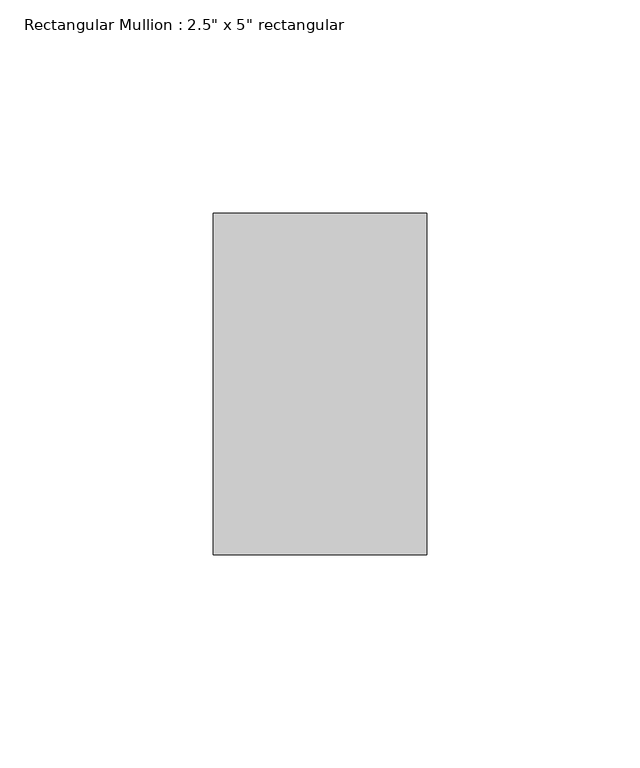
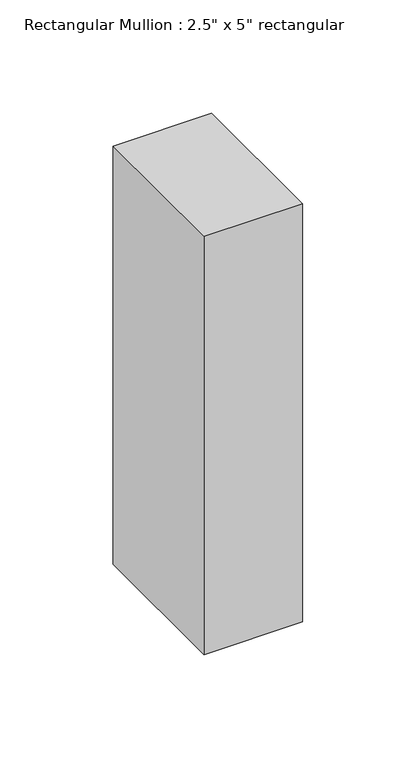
"""IFC4 building model written with IfcOpenShell, lengths in millimetres: member geometry."""

from ifc_helpers import new_model, si_unit, frame, origin, place, context, project, spatial, polyline, outline, extrude, source, transform, mapped, element, save


def member_7ecdc260(model_context):
    return source(origin(), model_context, "Body", "SweptSolid", [
        extrude(outline(polyline([(0.0, 40.0), (0.0, -40.0), (-50.0, -40.0), (-50.0, 40.0), (0.0, 40.0)])), frame((0.0, 0.0, -224.9999997), z_axis=(0.0, 0.0, 1.0), x_axis=(1.0, 0.0, 0.0)), (0.0, 0.0, 1.0), 224.9999997),
    ])


if __name__ == "__main__":
    model = new_model("IFC4")
    model_context = context("Model", 3, world=origin())
    ifc_project = project(units=[si_unit("LENGTHUNIT", "METRE", prefix="MILLI")], contexts=[model_context])
    site = spatial("IfcSite", under=ifc_project)
    building = spatial("IfcBuilding", under=site)
    placement = place(None, origin())
    member_shape = member_7ecdc260(model_context)
    element("IfcMember", 1, ObjectType="Rectangular Mullion : 2.5\" x 5\" rectangular", at=placement, inside=building, context=model_context, shape_type="MappedRepresentation", body=[
        mapped(member_shape, transform((0.0, 0.0, 0.0), x_axis=(1.0, 0.0, 0.0), y_axis=(0.0, 1.0, 0.0), z_axis=(0.0, 0.0, 1.0))),
    ])
    save(model, "model.ifc")
